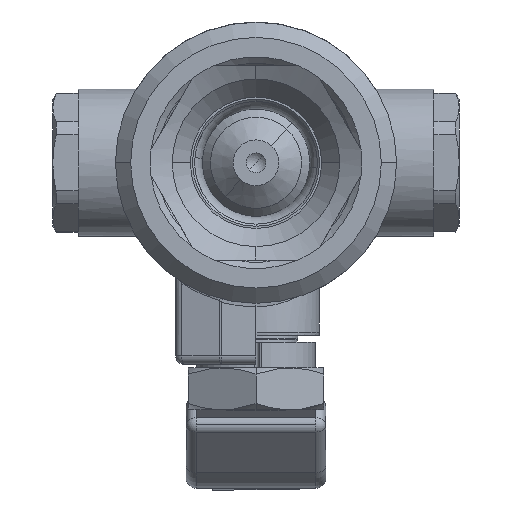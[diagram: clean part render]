
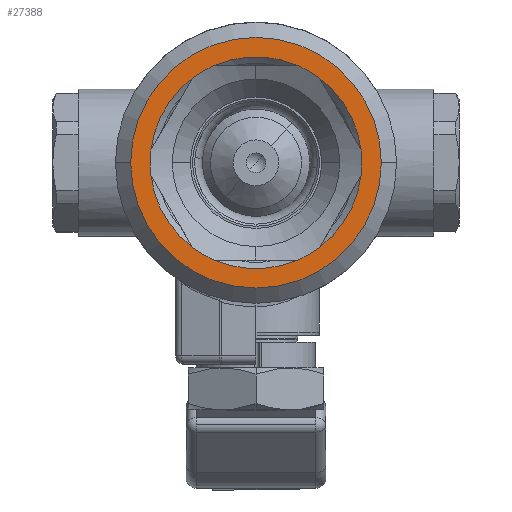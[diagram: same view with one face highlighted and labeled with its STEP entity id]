
A CAD part, left-side view. The second image highlights one B-rep face of the part: STEP entity #27388.
In plain terms, the highlighted planar face has unit normal (-1, 0, 0).
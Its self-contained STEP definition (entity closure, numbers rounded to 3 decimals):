
#96 = DIRECTION ( 'NONE',  ( -1., 0., 0. ) ) ;
#208 = DIRECTION ( 'NONE',  ( 1., 0., 0. ) ) ;
#647 = ORIENTED_EDGE ( 'NONE', *, *, #9047, .F. ) ;
#799 = EDGE_CURVE ( 'NONE', #19411, #10882, #11698, .T. ) ;
#911 = DIRECTION ( 'NONE',  ( -1., 0., 0. ) ) ;
#1058 = AXIS2_PLACEMENT_3D ( 'NONE', #13295, #13002, #16348 ) ;
#1969 = CARTESIAN_POINT ( 'NONE',  ( -21., 11.5, -4.899 ) ) ;
#2115 = ORIENTED_EDGE ( 'NONE', *, *, #17186, .F. ) ;
#2657 = CIRCLE ( 'NONE', #35387, 12.5 ) ;
#2699 = ORIENTED_EDGE ( 'NONE', *, *, #31727, .F. ) ;
#3077 = AXIS2_PLACEMENT_3D ( 'NONE', #42723, #9611, #26356 ) ;
#3088 = CARTESIAN_POINT ( 'NONE',  ( -21., 0., 0. ) ) ;
#3372 = FACE_BOUND ( 'NONE', #12881, .T. ) ;
#3843 = EDGE_CURVE ( 'NONE', #39701, #22319, #13581, .T. ) ;
#3985 = EDGE_LOOP ( 'NONE', ( #30749, #32964 ) ) ;
#4452 = VERTEX_POINT ( 'NONE', #1969 ) ;
#4608 = AXIS2_PLACEMENT_3D ( 'NONE', #18101, #21602, #41451 ) ;
#4714 = CARTESIAN_POINT ( 'NONE',  ( -21., 0., 0. ) ) ;
#4856 = AXIS2_PLACEMENT_3D ( 'NONE', #20102, #96, #10189 ) ;
#5226 = ORIENTED_EDGE ( 'NONE', *, *, #35123, .F. ) ;
#5409 = CIRCLE ( 'NONE', #16539, 12.5 ) ;
#5644 = ORIENTED_EDGE ( 'NONE', *, *, #15904, .F. ) ;
#6119 = CARTESIAN_POINT ( 'NONE',  ( -21., 0., 0. ) ) ;
#6202 = DIRECTION ( 'NONE',  ( 0., 0., 1. ) ) ;
#6283 = DIRECTION ( 'NONE',  ( -1., 0., 0. ) ) ;
#6680 = CARTESIAN_POINT ( 'NONE',  ( -21., -1.507, -12.409 ) ) ;
#7381 = VERTEX_POINT ( 'NONE', #38644 ) ;
#7397 = CARTESIAN_POINT ( 'NONE',  ( -21., -9.993, -7.51 ) ) ;
#8249 = CIRCLE ( 'NONE', #4856, 12.5 ) ;
#8518 = DIRECTION ( 'NONE',  ( 0., 0., 1. ) ) ;
#8972 = CIRCLE ( 'NONE', #34082, 12.5 ) ;
#9010 = CIRCLE ( 'NONE', #30359, 12.5 ) ;
#9047 = EDGE_CURVE ( 'NONE', #11989, #13226, #5409, .T. ) ;
#9212 = DIRECTION ( 'NONE',  ( 0., 0., 1. ) ) ;
#9215 = CIRCLE ( 'NONE', #29786, 12.5 ) ;
#9302 = CIRCLE ( 'NONE', #34523, 12.5 ) ;
#9351 = DIRECTION ( 'NONE',  ( 0., 0., 1. ) ) ;
#9352 = CARTESIAN_POINT ( 'NONE',  ( -21., 1.507, 12.409 ) ) ;
#9611 = DIRECTION ( 'NONE',  ( -1., 0., 0. ) ) ;
#9922 = CIRCLE ( 'NONE', #17059, 12.5 ) ;
#10189 = DIRECTION ( 'NONE',  ( 0., 0., 1. ) ) ;
#10882 = VERTEX_POINT ( 'NONE', #6680 ) ;
#10996 = DIRECTION ( 'NONE',  ( 0., 0., 1. ) ) ;
#11454 = CARTESIAN_POINT ( 'NONE',  ( -21., 0., 0. ) ) ;
#11589 = DIRECTION ( 'NONE',  ( -1., 0., 0. ) ) ;
#11678 = CARTESIAN_POINT ( 'NONE',  ( -21., -9.993, 7.51 ) ) ;
#11698 = CIRCLE ( 'NONE', #19895, 12.5 ) ;
#11989 = VERTEX_POINT ( 'NONE', #11678 ) ;
#12578 = DIRECTION ( 'NONE',  ( -1., 0., 0. ) ) ;
#12719 = ORIENTED_EDGE ( 'NONE', *, *, #22154, .F. ) ;
#12881 = EDGE_LOOP ( 'NONE', ( #18256, #31884, #2699, #647, #5226, #25710, #5644, #26092, #26974, #31412, #12719, #2115, #24318 ) ) ;
#12914 = AXIS2_PLACEMENT_3D ( 'NONE', #16116, #29056, #6202 ) ;
#12953 = CIRCLE ( 'NONE', #34009, 14.8 ) ;
#13002 = DIRECTION ( 'NONE',  ( -1., 0., 0. ) ) ;
#13045 = VERTEX_POINT ( 'NONE', #28874 ) ;
#13068 = CARTESIAN_POINT ( 'NONE',  ( -21., 11.5, 4.899 ) ) ;
#13226 = VERTEX_POINT ( 'NONE', #23216 ) ;
#13295 = CARTESIAN_POINT ( 'NONE',  ( -21., 0., 0. ) ) ;
#13442 = CARTESIAN_POINT ( 'NONE',  ( -21., 0., -14.8 ) ) ;
#13581 = CIRCLE ( 'NONE', #4608, 14.8 ) ;
#13739 = DIRECTION ( 'NONE',  ( 0., 0., 1. ) ) ;
#13877 = DIRECTION ( 'NONE',  ( -1., 0., 0. ) ) ;
#14570 = VERTEX_POINT ( 'NONE', #7397 ) ;
#15021 = EDGE_CURVE ( 'NONE', #30370, #33548, #22499, .T. ) ;
#15701 = CARTESIAN_POINT ( 'NONE',  ( -21., 0., 0. ) ) ;
#15731 = CIRCLE ( 'NONE', #31983, 12.5 ) ;
#15904 = EDGE_CURVE ( 'NONE', #14570, #24593, #9922, .T. ) ;
#16116 = CARTESIAN_POINT ( 'NONE',  ( -21., 0., 0. ) ) ;
#16348 = DIRECTION ( 'NONE',  ( 0., 0., 1. ) ) ;
#16363 = CARTESIAN_POINT ( 'NONE',  ( -21., 0., 0. ) ) ;
#16539 = AXIS2_PLACEMENT_3D ( 'NONE', #6119, #19403, #32917 ) ;
#16682 = EDGE_CURVE ( 'NONE', #24593, #40509, #19796, .T. ) ;
#17000 = CARTESIAN_POINT ( 'NONE',  ( -21., 0., 14.8 ) ) ;
#17059 = AXIS2_PLACEMENT_3D ( 'NONE', #4714, #911, #10996 ) ;
#17186 = EDGE_CURVE ( 'NONE', #27309, #4452, #9302, .T. ) ;
#17939 = FACE_OUTER_BOUND ( 'NONE', #3985, .T. ) ;
#18101 = CARTESIAN_POINT ( 'NONE',  ( -21., 0., 0. ) ) ;
#18256 = ORIENTED_EDGE ( 'NONE', *, *, #15021, .F. ) ;
#18281 = DIRECTION ( 'NONE',  ( 0., 0., 1. ) ) ;
#18872 = CARTESIAN_POINT ( 'NONE',  ( -21., 1.507, -12.409 ) ) ;
#19403 = DIRECTION ( 'NONE',  ( -1., 0., 0. ) ) ;
#19411 = VERTEX_POINT ( 'NONE', #18872 ) ;
#19447 = DIRECTION ( 'NONE',  ( -1., 0., 0. ) ) ;
#19643 = DIRECTION ( 'NONE',  ( 0., 0., 1. ) ) ;
#19796 = CIRCLE ( 'NONE', #12914, 12.5 ) ;
#19813 = EDGE_CURVE ( 'NONE', #33548, #27309, #27264, .T. ) ;
#19895 = AXIS2_PLACEMENT_3D ( 'NONE', #11454, #41370, #8518 ) ;
#20071 = PLANE ( 'NONE',  #25719 ) ;
#20102 = CARTESIAN_POINT ( 'NONE',  ( -21., 0., 0. ) ) ;
#20628 = DIRECTION ( 'NONE',  ( 0., 0., -1. ) ) ;
#21012 = EDGE_CURVE ( 'NONE', #10882, #14570, #15731, .T. ) ;
#21602 = DIRECTION ( 'NONE',  ( -1., 0., 0. ) ) ;
#22154 = EDGE_CURVE ( 'NONE', #4452, #13045, #2657, .T. ) ;
#22319 = VERTEX_POINT ( 'NONE', #17000 ) ;
#22499 = CIRCLE ( 'NONE', #3077, 12.5 ) ;
#22988 = CARTESIAN_POINT ( 'NONE',  ( -21., 0., 0. ) ) ;
#23146 = DIRECTION ( 'NONE',  ( -1., 0., 0. ) ) ;
#23216 = CARTESIAN_POINT ( 'NONE',  ( -21., -1.507, 12.409 ) ) ;
#24301 = EDGE_CURVE ( 'NONE', #22319, #39701, #12953, .T. ) ;
#24318 = ORIENTED_EDGE ( 'NONE', *, *, #19813, .F. ) ;
#24593 = VERTEX_POINT ( 'NONE', #33162 ) ;
#25710 = ORIENTED_EDGE ( 'NONE', *, *, #16682, .F. ) ;
#25719 = AXIS2_PLACEMENT_3D ( 'NONE', #40368, #208, #20628 ) ;
#26092 = ORIENTED_EDGE ( 'NONE', *, *, #21012, .F. ) ;
#26356 = DIRECTION ( 'NONE',  ( 0., 0., 1. ) ) ;
#26974 = ORIENTED_EDGE ( 'NONE', *, *, #799, .F. ) ;
#27264 = CIRCLE ( 'NONE', #1058, 12.5 ) ;
#27309 = VERTEX_POINT ( 'NONE', #13068 ) ;
#27388 = ADVANCED_FACE ( 'NONE', ( #3372, #17939 ), #20071, .F. ) ;
#28874 = CARTESIAN_POINT ( 'NONE',  ( -21., 9.993, -7.51 ) ) ;
#29056 = DIRECTION ( 'NONE',  ( -1., 0., 0. ) ) ;
#29500 = CARTESIAN_POINT ( 'NONE',  ( -21., -11.5, 4.899 ) ) ;
#29786 = AXIS2_PLACEMENT_3D ( 'NONE', #3088, #6283, #39719 ) ;
#30350 = EDGE_CURVE ( 'NONE', #13045, #19411, #9010, .T. ) ;
#30359 = AXIS2_PLACEMENT_3D ( 'NONE', #16363, #19447, #9212 ) ;
#30370 = VERTEX_POINT ( 'NONE', #9352 ) ;
#30749 = ORIENTED_EDGE ( 'NONE', *, *, #3843, .T. ) ;
#31412 = ORIENTED_EDGE ( 'NONE', *, *, #30350, .F. ) ;
#31727 = EDGE_CURVE ( 'NONE', #13226, #7381, #8972, .T. ) ;
#31818 = CARTESIAN_POINT ( 'NONE',  ( -21., 0., 0. ) ) ;
#31884 = ORIENTED_EDGE ( 'NONE', *, *, #36398, .F. ) ;
#31983 = AXIS2_PLACEMENT_3D ( 'NONE', #32524, #12578, #9351 ) ;
#32524 = CARTESIAN_POINT ( 'NONE',  ( -21., 0., 0. ) ) ;
#32917 = DIRECTION ( 'NONE',  ( 0., 0., 1. ) ) ;
#32964 = ORIENTED_EDGE ( 'NONE', *, *, #24301, .T. ) ;
#33162 = CARTESIAN_POINT ( 'NONE',  ( -21., -11.5, -4.899 ) ) ;
#33548 = VERTEX_POINT ( 'NONE', #42765 ) ;
#34009 = AXIS2_PLACEMENT_3D ( 'NONE', #15701, #41834, #35398 ) ;
#34082 = AXIS2_PLACEMENT_3D ( 'NONE', #31818, #11589, #18281 ) ;
#34523 = AXIS2_PLACEMENT_3D ( 'NONE', #41006, #13877, #13739 ) ;
#35123 = EDGE_CURVE ( 'NONE', #40509, #11989, #8249, .T. ) ;
#35387 = AXIS2_PLACEMENT_3D ( 'NONE', #22988, #23146, #19643 ) ;
#35398 = DIRECTION ( 'NONE',  ( 0., 0., 1. ) ) ;
#36398 = EDGE_CURVE ( 'NONE', #7381, #30370, #9215, .T. ) ;
#38644 = CARTESIAN_POINT ( 'NONE',  ( -21., 0., 12.5 ) ) ;
#39701 = VERTEX_POINT ( 'NONE', #13442 ) ;
#39719 = DIRECTION ( 'NONE',  ( 0., 0., 1. ) ) ;
#40368 = CARTESIAN_POINT ( 'NONE',  ( -21., 14.8, 0. ) ) ;
#40509 = VERTEX_POINT ( 'NONE', #29500 ) ;
#41006 = CARTESIAN_POINT ( 'NONE',  ( -21., 0., 0. ) ) ;
#41370 = DIRECTION ( 'NONE',  ( -1., 0., 0. ) ) ;
#41451 = DIRECTION ( 'NONE',  ( 0., 0., 1. ) ) ;
#41834 = DIRECTION ( 'NONE',  ( -1., 0., 0. ) ) ;
#42723 = CARTESIAN_POINT ( 'NONE',  ( -21., 0., 0. ) ) ;
#42765 = CARTESIAN_POINT ( 'NONE',  ( -21., 9.993, 7.51 ) ) ;
